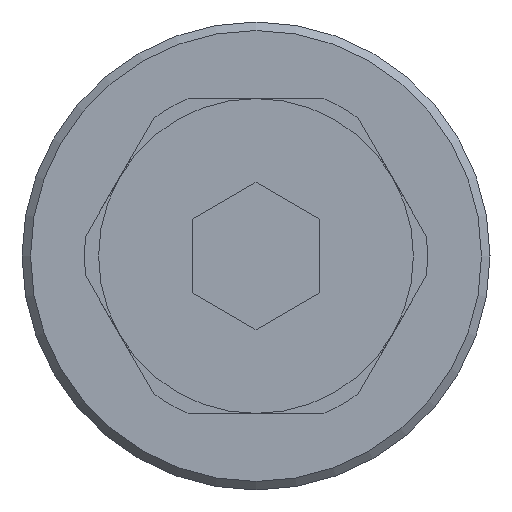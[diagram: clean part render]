
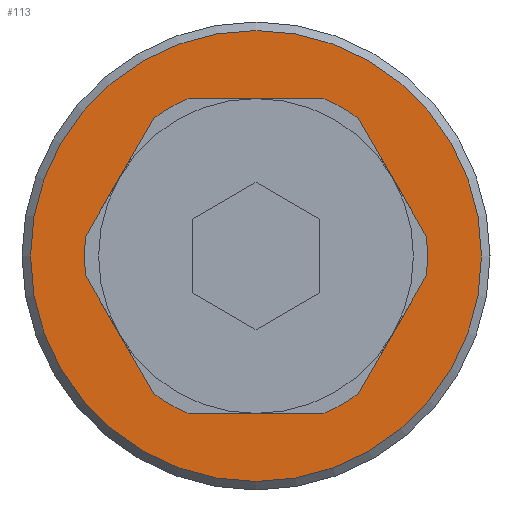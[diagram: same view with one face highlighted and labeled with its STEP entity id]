
A CAD part, left-side view. The second image highlights one B-rep face of the part: STEP entity #113.
In plain terms, the highlighted planar face has unit normal (-1, 0, 0).
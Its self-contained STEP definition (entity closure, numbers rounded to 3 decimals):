
#113 = ADVANCED_FACE( '', ( #247, #248 ), #249, .F. );
#247 = FACE_OUTER_BOUND( '', #394, .T. );
#248 = FACE_BOUND( '', #395, .T. );
#249 = PLANE( '', #396 );
#394 = EDGE_LOOP( '', ( #640 ) );
#395 = EDGE_LOOP( '', ( #641, #642, #643, #644, #645, #646, #647, #648, #649, #650, #651, #652 ) );
#396 = AXIS2_PLACEMENT_3D( '', #653, #654, #655 );
#640 = ORIENTED_EDGE( '', *, *, #869, .F. );
#641 = ORIENTED_EDGE( '', *, *, #871, .T. );
#642 = ORIENTED_EDGE( '', *, *, #795, .T. );
#643 = ORIENTED_EDGE( '', *, *, #866, .T. );
#644 = ORIENTED_EDGE( '', *, *, #817, .T. );
#645 = ORIENTED_EDGE( '', *, *, #872, .T. );
#646 = ORIENTED_EDGE( '', *, *, #789, .T. );
#647 = ORIENTED_EDGE( '', *, *, #820, .T. );
#648 = ORIENTED_EDGE( '', *, *, #873, .T. );
#649 = ORIENTED_EDGE( '', *, *, #824, .F. );
#650 = ORIENTED_EDGE( '', *, *, #854, .T. );
#651 = ORIENTED_EDGE( '', *, *, #831, .T. );
#652 = ORIENTED_EDGE( '', *, *, #863, .T. );
#653 = CARTESIAN_POINT( '', ( 0., 0., 0. ) );
#654 = DIRECTION( '', ( 1., 0., 0. ) );
#655 = DIRECTION( '', ( 0., 0., -1. ) );
#789 = EDGE_CURVE( '', #922, #920, #923, .T. );
#795 = EDGE_CURVE( '', #932, #930, #933, .T. );
#817 = EDGE_CURVE( '', #966, #964, #967, .T. );
#820 = EDGE_CURVE( '', #920, #970, #971, .T. );
#824 = EDGE_CURVE( '', #976, #977, #978, .F. );
#831 = EDGE_CURVE( '', #987, #988, #989, .T. );
#854 = EDGE_CURVE( '', #976, #987, #1022, .T. );
#863 = EDGE_CURVE( '', #988, #1032, #1034, .T. );
#866 = EDGE_CURVE( '', #930, #966, #1037, .T. );
#869 = EDGE_CURVE( '', #1041, #1041, #1042, .T. );
#871 = EDGE_CURVE( '', #1032, #932, #1044, .T. );
#872 = EDGE_CURVE( '', #964, #922, #1045, .T. );
#873 = EDGE_CURVE( '', #970, #977, #1046, .T. );
#920 = VERTEX_POINT( '', #1099 );
#922 = VERTEX_POINT( '', #1102 );
#923 = LINE( '', #1103, #1104 );
#930 = VERTEX_POINT( '', #1114 );
#932 = VERTEX_POINT( '', #1117 );
#933 = LINE( '', #1118, #1119 );
#964 = VERTEX_POINT( '', #1157 );
#966 = VERTEX_POINT( '', #1160 );
#967 = LINE( '', #1161, #1162 );
#970 = VERTEX_POINT( '', #1166 );
#971 = CIRCLE( '', #1167, 4.03 );
#976 = VERTEX_POINT( '', #1173 );
#977 = VERTEX_POINT( '', #1174 );
#978 = CIRCLE( '', #1175, 4.03 );
#987 = VERTEX_POINT( '', #1187 );
#988 = VERTEX_POINT( '', #1188 );
#989 = CIRCLE( '', #1189, 4.03 );
#1022 = LINE( '', #1231, #1232 );
#1032 = VERTEX_POINT( '', #1247 );
#1034 = LINE( '', #1250, #1251 );
#1037 = CIRCLE( '', #1254, 4.03 );
#1041 = VERTEX_POINT( '', #1258 );
#1042 = CIRCLE( '', #1259, 5.3 );
#1044 = CIRCLE( '', #1261, 4.03 );
#1045 = CIRCLE( '', #1262, 4.03 );
#1046 = LINE( '', #1263, #1264 );
#1099 = CARTESIAN_POINT( '', ( 0., 1.597, -3.7 ) );
#1102 = CARTESIAN_POINT( '', ( 0., -1.597, -3.7 ) );
#1103 = CARTESIAN_POINT( '', ( 0., -1.597, -3.7 ) );
#1104 = VECTOR( '', #1326, 1000. );
#1114 = CARTESIAN_POINT( '', ( 0., -4.003, 0.467 ) );
#1117 = CARTESIAN_POINT( '', ( 0., -2.406, 3.233 ) );
#1118 = CARTESIAN_POINT( '', ( 0., -2.406, 3.233 ) );
#1119 = VECTOR( '', #1331, 1000. );
#1157 = CARTESIAN_POINT( '', ( 0., -2.406, -3.233 ) );
#1160 = CARTESIAN_POINT( '', ( 0., -4.003, -0.467 ) );
#1161 = CARTESIAN_POINT( '', ( 0., -4.003, -0.467 ) );
#1162 = VECTOR( '', #1358, 1000. );
#1166 = CARTESIAN_POINT( '', ( 0., 2.406, -3.233 ) );
#1167 = AXIS2_PLACEMENT_3D( '', #1360, #1361, #1362 );
#1173 = CARTESIAN_POINT( '', ( 0., 4.003, 0.467 ) );
#1174 = CARTESIAN_POINT( '', ( 0., 4.003, -0.467 ) );
#1175 = AXIS2_PLACEMENT_3D( '', #1367, #1368, #1369 );
#1187 = CARTESIAN_POINT( '', ( 0., 2.406, 3.233 ) );
#1188 = CARTESIAN_POINT( '', ( 0., 1.597, 3.7 ) );
#1189 = AXIS2_PLACEMENT_3D( '', #1376, #1377, #1378 );
#1231 = CARTESIAN_POINT( '', ( 0., 4.003, 0.467 ) );
#1232 = VECTOR( '', #1406, 1000. );
#1247 = CARTESIAN_POINT( '', ( 0., -1.597, 3.7 ) );
#1250 = CARTESIAN_POINT( '', ( 0., 1.597, 3.7 ) );
#1251 = VECTOR( '', #1413, 1000. );
#1254 = AXIS2_PLACEMENT_3D( '', #1414, #1415, #1416 );
#1258 = CARTESIAN_POINT( '', ( 0., 0., -5.3 ) );
#1259 = AXIS2_PLACEMENT_3D( '', #1420, #1421, #1422 );
#1261 = AXIS2_PLACEMENT_3D( '', #1423, #1424, #1425 );
#1262 = AXIS2_PLACEMENT_3D( '', #1426, #1427, #1428 );
#1263 = CARTESIAN_POINT( '', ( 0., 2.406, -3.233 ) );
#1264 = VECTOR( '', #1429, 1000. );
#1326 = DIRECTION( '', ( 0., 1., 0. ) );
#1331 = DIRECTION( '', ( 0., -0.5, -0.866 ) );
#1358 = DIRECTION( '', ( 0., 0.5, -0.866 ) );
#1360 = CARTESIAN_POINT( '', ( 0., 0., 0. ) );
#1361 = DIRECTION( '', ( 1., 0., 0. ) );
#1362 = DIRECTION( '', ( 0., 0., -1. ) );
#1367 = CARTESIAN_POINT( '', ( 0., 0., 0. ) );
#1368 = DIRECTION( '', ( 1., 0., 0. ) );
#1369 = DIRECTION( '', ( 0., 0., -1. ) );
#1376 = CARTESIAN_POINT( '', ( 0., 0., 0. ) );
#1377 = DIRECTION( '', ( 1., 0., 0. ) );
#1378 = DIRECTION( '', ( 0., 0., -1. ) );
#1406 = DIRECTION( '', ( 0., -0.5, 0.866 ) );
#1413 = DIRECTION( '', ( 0., -1., 0. ) );
#1414 = CARTESIAN_POINT( '', ( 0., 0., 0. ) );
#1415 = DIRECTION( '', ( 1., 0., 0. ) );
#1416 = DIRECTION( '', ( 0., 0., -1. ) );
#1420 = CARTESIAN_POINT( '', ( 0., 0., 0. ) );
#1421 = DIRECTION( '', ( 1., 0., 0. ) );
#1422 = DIRECTION( '', ( 0., 0., -1. ) );
#1423 = CARTESIAN_POINT( '', ( 0., 0., 0. ) );
#1424 = DIRECTION( '', ( 1., 0., 0. ) );
#1425 = DIRECTION( '', ( 0., 0., -1. ) );
#1426 = CARTESIAN_POINT( '', ( 0., 0., 0. ) );
#1427 = DIRECTION( '', ( 1., 0., 0. ) );
#1428 = DIRECTION( '', ( 0., 0., -1. ) );
#1429 = DIRECTION( '', ( 0., 0.5, 0.866 ) );
